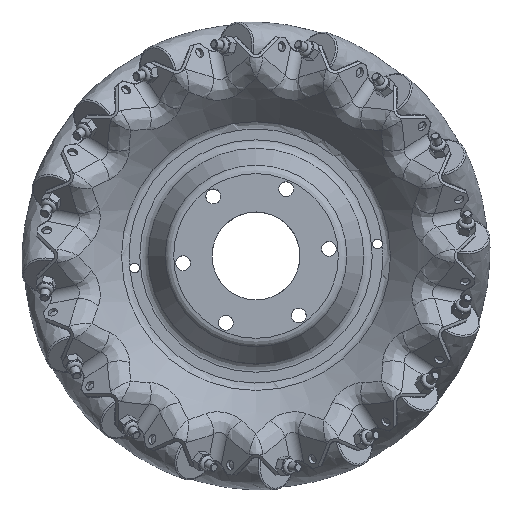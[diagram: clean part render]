
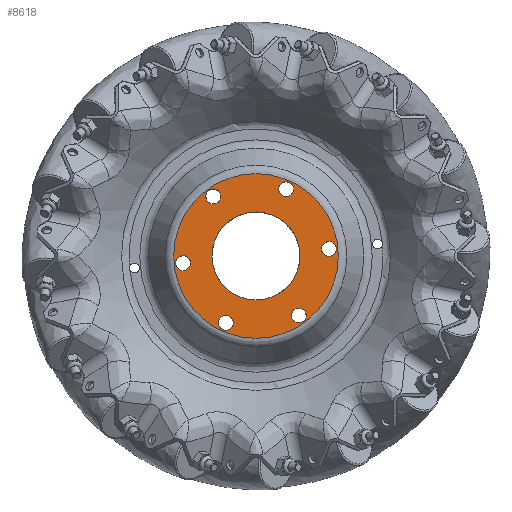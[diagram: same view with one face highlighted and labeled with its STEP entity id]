
A CAD part, top view. The second image highlights one B-rep face of the part: STEP entity #8618.
In plain terms, the highlighted planar face has unit normal (0, 0, 1).
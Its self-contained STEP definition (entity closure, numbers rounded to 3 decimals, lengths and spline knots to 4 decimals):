
#520=PLANE('',#9524);
#1898=FACE_BOUND('',#3058,.T.);
#1899=FACE_BOUND('',#3059,.T.);
#1900=FACE_BOUND('',#3060,.T.);
#1901=FACE_BOUND('',#3061,.T.);
#1902=FACE_BOUND('',#3062,.T.);
#1903=FACE_BOUND('',#3063,.T.);
#1904=FACE_BOUND('',#3064,.T.);
#2414=FACE_OUTER_BOUND('',#3057,.T.);
#3057=EDGE_LOOP('',(#7969));
#3058=EDGE_LOOP('',(#7970));
#3059=EDGE_LOOP('',(#7971));
#3060=EDGE_LOOP('',(#7972));
#3061=EDGE_LOOP('',(#7973));
#3062=EDGE_LOOP('',(#7974));
#3063=EDGE_LOOP('',(#7975));
#3064=EDGE_LOOP('',(#7976));
#3143=CIRCLE('',#8713,0.5625);
#3145=CIRCLE('',#8716,0.095);
#3147=CIRCLE('',#8719,0.095);
#3149=CIRCLE('',#8722,0.095);
#3151=CIRCLE('',#8725,0.095);
#3153=CIRCLE('',#8728,0.095);
#3155=CIRCLE('',#8731,0.095);
#3232=CIRCLE('',#8847,1.0528);
#3545=VERTEX_POINT('',#11936);
#3547=VERTEX_POINT('',#11941);
#3549=VERTEX_POINT('',#11946);
#3551=VERTEX_POINT('',#11951);
#3553=VERTEX_POINT('',#11956);
#3555=VERTEX_POINT('',#11961);
#3557=VERTEX_POINT('',#11966);
#3628=VERTEX_POINT('',#12153);
#4351=EDGE_CURVE('',#3545,#3545,#3143,.T.);
#4353=EDGE_CURVE('',#3547,#3547,#3145,.T.);
#4355=EDGE_CURVE('',#3549,#3549,#3147,.T.);
#4357=EDGE_CURVE('',#3551,#3551,#3149,.T.);
#4359=EDGE_CURVE('',#3553,#3553,#3151,.T.);
#4361=EDGE_CURVE('',#3555,#3555,#3153,.T.);
#4363=EDGE_CURVE('',#3557,#3557,#3155,.T.);
#4440=EDGE_CURVE('',#3628,#3628,#3232,.T.);
#7969=ORIENTED_EDGE('',*,*,#4440,.F.);
#7970=ORIENTED_EDGE('',*,*,#4351,.F.);
#7971=ORIENTED_EDGE('',*,*,#4353,.F.);
#7972=ORIENTED_EDGE('',*,*,#4355,.F.);
#7973=ORIENTED_EDGE('',*,*,#4357,.F.);
#7974=ORIENTED_EDGE('',*,*,#4359,.F.);
#7975=ORIENTED_EDGE('',*,*,#4361,.F.);
#7976=ORIENTED_EDGE('',*,*,#4363,.F.);
#8618=ADVANCED_FACE('',(#2414,#1898,#1899,#1900,#1901,#1902,#1903,#1904),
#520,.T.);
#8713=AXIS2_PLACEMENT_3D('',#11937,#9680,#9681);
#8716=AXIS2_PLACEMENT_3D('',#11942,#9686,#9687);
#8719=AXIS2_PLACEMENT_3D('',#11947,#9692,#9693);
#8722=AXIS2_PLACEMENT_3D('',#11952,#9698,#9699);
#8725=AXIS2_PLACEMENT_3D('',#11957,#9704,#9705);
#8728=AXIS2_PLACEMENT_3D('',#11962,#9710,#9711);
#8731=AXIS2_PLACEMENT_3D('',#11967,#9716,#9717);
#8847=AXIS2_PLACEMENT_3D('',#12154,#9948,#9949);
#9524=AXIS2_PLACEMENT_3D('',#46997,#11430,#11431);
#9680=DIRECTION('center_axis',(0.,0.,1.));
#9681=DIRECTION('ref_axis',(1.,0.,0.));
#9686=DIRECTION('center_axis',(0.,0.,1.));
#9687=DIRECTION('ref_axis',(1.,0.,0.));
#9692=DIRECTION('center_axis',(0.,0.,1.));
#9693=DIRECTION('ref_axis',(1.,0.,0.));
#9698=DIRECTION('center_axis',(0.,0.,1.));
#9699=DIRECTION('ref_axis',(1.,0.,0.));
#9704=DIRECTION('center_axis',(0.,0.,1.));
#9705=DIRECTION('ref_axis',(1.,0.,0.));
#9710=DIRECTION('center_axis',(0.,0.,1.));
#9711=DIRECTION('ref_axis',(1.,0.,0.));
#9716=DIRECTION('center_axis',(0.,0.,1.));
#9717=DIRECTION('ref_axis',(1.,0.,0.));
#9948=DIRECTION('center_axis',(0.,0.,-1.));
#9949=DIRECTION('ref_axis',(-1.,0.,0.));
#11430=DIRECTION('center_axis',(0.,0.,1.));
#11431=DIRECTION('ref_axis',(1.,0.,0.));
#11936=CARTESIAN_POINT('',(0.5625,0.,0.5));
#11937=CARTESIAN_POINT('Origin',(0.,0.,0.5));
#11941=CARTESIAN_POINT('',(-0.2919,-0.8539,0.5));
#11942=CARTESIAN_POINT('Origin',(-0.3869,-0.8539,
0.5));
#11946=CARTESIAN_POINT('',(-0.838,-0.0919,0.5));
#11947=CARTESIAN_POINT('Origin',(-0.933,-0.0919,
0.5));
#11951=CARTESIAN_POINT('',(-0.4511,0.762,0.5));
#11952=CARTESIAN_POINT('Origin',(-0.5461,0.762,0.5));
#11956=CARTESIAN_POINT('',(0.4819,0.8539,0.5));
#11957=CARTESIAN_POINT('Origin',(0.3869,0.8539,0.5));
#11961=CARTESIAN_POINT('',(1.028,0.0919,0.5));
#11962=CARTESIAN_POINT('Origin',(0.933,0.0919,0.5));
#11966=CARTESIAN_POINT('',(0.6411,-0.762,0.5));
#11967=CARTESIAN_POINT('Origin',(0.5461,-0.762,0.5));
#12153=CARTESIAN_POINT('',(-1.0528,0.,0.5));
#12154=CARTESIAN_POINT('Origin',(0.,0.,0.5));
#46997=CARTESIAN_POINT('Origin',(1.0528,0.,0.5));
